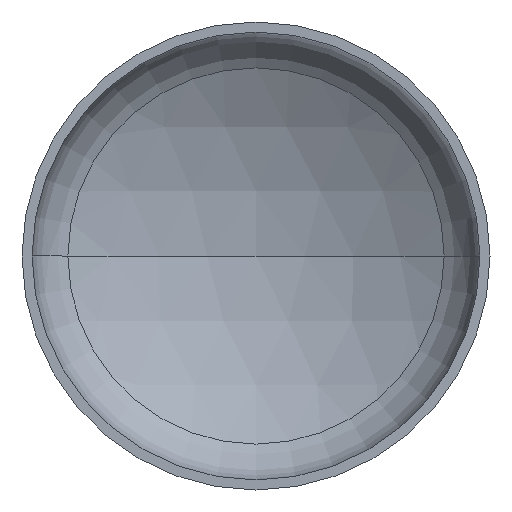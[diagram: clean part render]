
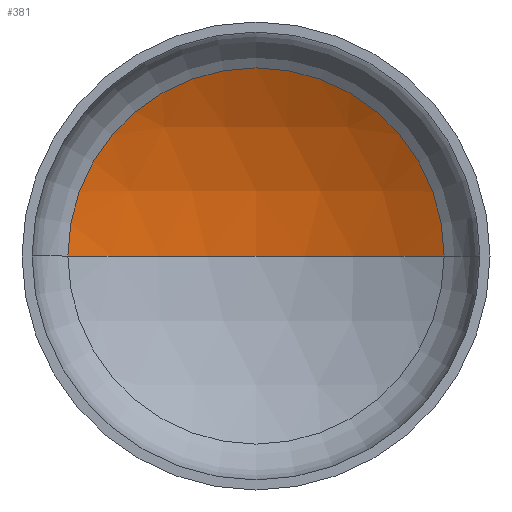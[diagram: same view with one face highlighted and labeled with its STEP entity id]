
A CAD part, front view. The second image highlights one B-rep face of the part: STEP entity #381.
In plain terms, the highlighted spherical face has radius 2080 mm.
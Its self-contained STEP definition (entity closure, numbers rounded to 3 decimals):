
#1 = CARTESIAN_POINT ( 'NONE',  ( 0., 465.859, 0. ) ) ;
#3 = DIRECTION ( 'NONE',  ( 0., -1., 0. ) ) ;
#4 = ORIENTED_EDGE ( 'NONE', *, *, #116, .F. ) ;
#9 = DIRECTION ( 'NONE',  ( 0., 0., -1. ) ) ;
#16 = CARTESIAN_POINT ( 'NONE',  ( 0., -1332.606, 0. ) ) ;
#32 = VERTEX_POINT ( 'NONE', #343 ) ;
#40 = AXIS2_PLACEMENT_3D ( 'NONE', #150, #174, #347 ) ;
#42 = AXIS2_PLACEMENT_3D ( 'NONE', #16, #9, #408 ) ;
#45 = AXIS2_PLACEMENT_3D ( 'NONE', #1, #3, #172 ) ;
#75 = ORIENTED_EDGE ( 'NONE', *, *, #114, .T. ) ;
#104 = EDGE_LOOP ( 'NONE', ( #4, #360, #75 ) ) ;
#114 = EDGE_CURVE ( 'NONE', #32, #131, #205, .T. ) ;
#115 = EDGE_CURVE ( 'NONE', #130, #32, #140, .T. ) ;
#116 = EDGE_CURVE ( 'NONE', #130, #131, #330, .T. ) ;
#130 = VERTEX_POINT ( 'NONE', #370 ) ;
#131 = VERTEX_POINT ( 'NONE', #390 ) ;
#140 = CIRCLE ( 'NONE', #42, 2080. ) ;
#150 = CARTESIAN_POINT ( 'NONE',  ( 0., -1332.606, 0. ) ) ;
#172 = DIRECTION ( 'NONE',  ( 1., 0., 0. ) ) ;
#174 = DIRECTION ( 'NONE',  ( 0., 0., 1. ) ) ;
#182 = DIRECTION ( 'NONE',  ( -1., 0., 0. ) ) ;
#205 = CIRCLE ( 'NONE', #45, 1044.952 ) ;
#213 = AXIS2_PLACEMENT_3D ( 'NONE', #258, #327, #182 ) ;
#258 = CARTESIAN_POINT ( 'NONE',  ( 0., -1332.606, 0. ) ) ;
#281 = SPHERICAL_SURFACE ( 'NONE', #213, 2080. ) ;
#327 = DIRECTION ( 'NONE',  ( 0., 0., -1. ) ) ;
#330 = CIRCLE ( 'NONE', #40, 2080. ) ;
#343 = CARTESIAN_POINT ( 'NONE',  ( 1044.952, 465.859, 0. ) ) ;
#347 = DIRECTION ( 'NONE',  ( 1., 0., 0. ) ) ;
#349 = FACE_OUTER_BOUND ( 'NONE', #104, .T. ) ;
#360 = ORIENTED_EDGE ( 'NONE', *, *, #115, .T. ) ;
#370 = CARTESIAN_POINT ( 'NONE',  ( 0., 747.394, 0. ) ) ;
#381 = ADVANCED_FACE ( 'NONE', ( #349 ), #281, .F. ) ;
#390 = CARTESIAN_POINT ( 'NONE',  ( -1044.952, 465.859, 0. ) ) ;
#408 = DIRECTION ( 'NONE',  ( -1., 0., 0. ) ) ;
